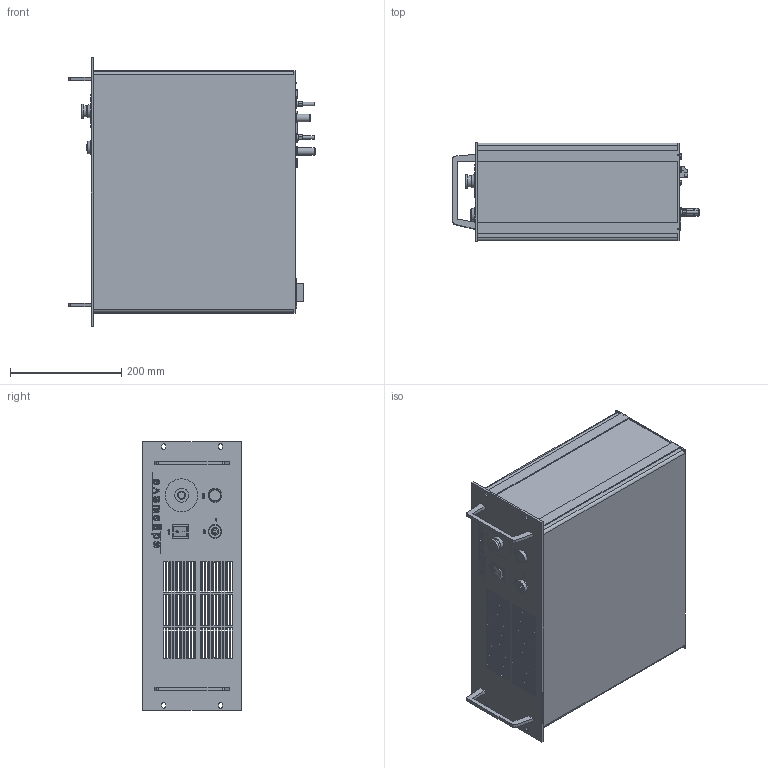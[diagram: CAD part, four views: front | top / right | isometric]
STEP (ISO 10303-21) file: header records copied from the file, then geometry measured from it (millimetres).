
FILE_DESCRIPTION(/* description */ (''),/* implementation_level */ '2;1');
FILE_NAME(/* name */ 'C:\Users\User\Documents\Inventor\#Lasermodelle Kunde\#Beams Überarbeitet\#2015.07.10 GP Redesign all Modells\Power Supply\4HE\2014.10.31 Netzteil (4HE) V3.stp',/* time_stamp */ '2016-01-19T10:36:55+01:00',/* author */ ('User'),/* organization */ (''),/* preprocessor_version */ 'ST-DEVELOPER v15.2',/* originating_system */ 'Autodesk Inventor 2014',/* authorisation */ '');
FILE_SCHEMA (('AUTOMOTIVE_DESIGN { 1 0 10303 214 3 1 1 }'));
Products named in the file (1): 2014.10.31 Netzteil (4HE) V3
Bounding box: 442 x 177.5 x 482 mm (x, y, z)
Volume: 2893112.8 mm3; surface area: 1264958.9 mm2
Topology: 7 solids, 11 shells, 4219 faces, 11156 edges, 7399 vertices
Faces by surface type: plane 2419, bspline 845, cylinder 826, cone 112, torus 12, sphere 5
Full cylindrical faces by diameter (mm): 1 x2, 1.067 x18, 1.118 x91, 2.21 x109, 3.048 x18, 3.1 x18, 3.242 x4, 4 x6, 4.5 x4, 4.6 x4, 6 x2, 7.5 x2, 8 x4, 9.63 x2, 10 x5, 10.13 x2, 13.8 x3, 15.5 x4, 16 x2, 16.5 x2, 19.8 x1, 19.9 x1, 24.7 x3, 25 x1, 59 x1
Entity records: 137102 total; most frequent: CARTESIAN_POINT 33229, ORIENTED_EDGE 21338, DIRECTION 17494, EDGE_CURVE 10667, VERTEX_POINT 7348, LINE 7210, VECTOR 7210, EDGE_LOOP 5635
